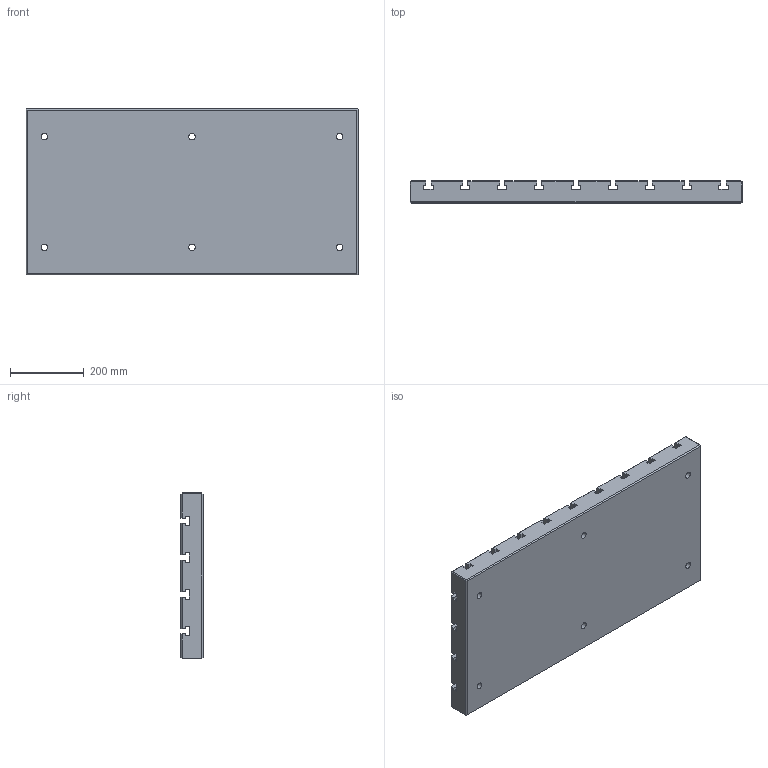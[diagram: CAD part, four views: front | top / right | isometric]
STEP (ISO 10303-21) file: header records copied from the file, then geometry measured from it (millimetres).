
FILE_DESCRIPTION((''),'2;1');
FILE_NAME('FG_WH_BASPL_RCTSLNP004','2026-05-17T10:58:51',('Admin'),(''),'CREO PARAMETRIC BY PTC INC, 2025010','CREO PARAMETRIC BY PTC INC, 2025010','');
FILE_SCHEMA(('CONFIG_CONTROL_DESIGN'));
Length unit declared in the file: millimetre
Products named in the file (1): FG_WH_BASPL_RCTSLNP004
Bounding box: 900 x 60 x 450 mm (x, y, z)
Volume: 21128764.5 mm3; surface area: 1387968.9 mm2
Topology: 1 solids, 1 shells, 546 faces, 1454 edges, 964 vertices
Faces by surface type: plane 498, cylinder 48
Entity records: 16748 total; most frequent: CARTESIAN_POINT 2964, ORIENTED_EDGE 2908, DIRECTION 2642, EDGE_CURVE 1454, VECTOR 1358, LINE 1358, VERTEX_POINT 964, AXIS2_PLACEMENT_3D 642
